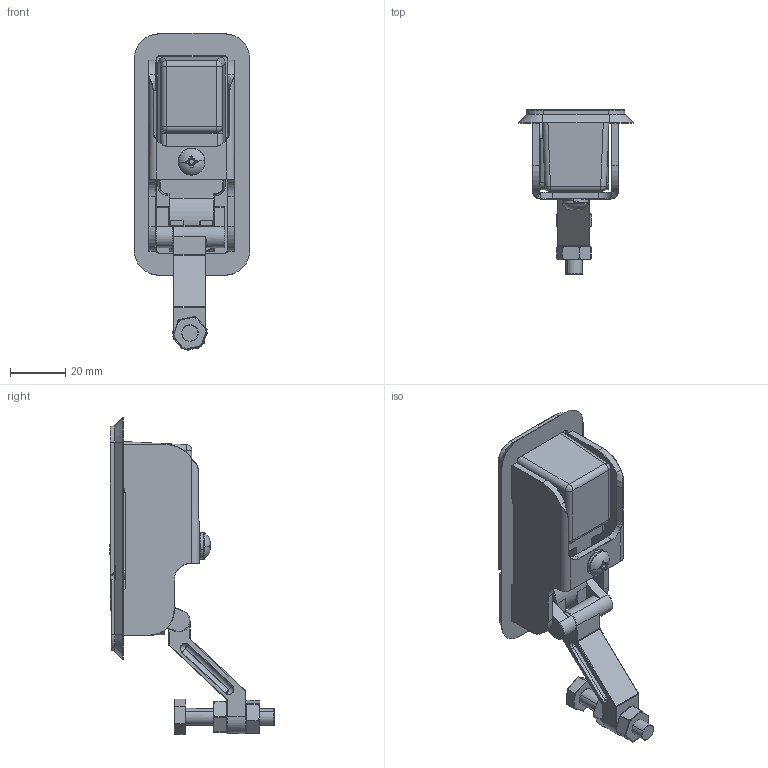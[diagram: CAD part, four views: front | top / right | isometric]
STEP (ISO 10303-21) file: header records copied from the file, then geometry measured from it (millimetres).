
FILE_DESCRIPTION (( 'STEP AP214' ), '1' );
FILE_NAME ('UES 10208B CP.BLK.STEP', '2016-09-16T05:03:24', ( 'rquinn' ), ( '' ), 'SwSTEP 2.0', 'SolidWorks 2016', '' );
FILE_SCHEMA (( 'AUTOMOTIVE_DESIGN' ));
Length unit declared in the file: millimetre
Products named in the file (16): 10208B Spring Washer; 10208B Screw; 10208B Housing; 10208B Rubber Seal; 10208B Arm Nut; 10208B Arm Bolt; 10208B Lock Barrel cap; 10208B Lock Barrel; 10208B Button Pin; 10208B Button; 10208B Arm side; 10208B Door_BLK; 10208B O-Ring; 10208B Arm; 10208B Inner Housing_BLK; UES 10208B CP.BLK
Assembly tree (16 placements, depth 2):
  UES 10208B CP.BLK
    10208B Inner Housing_BLK
    10208B Arm
    10208B O-Ring
    10208B Door_BLK
    10208B Arm side
    10208B Button
    10208B Button Pin
    10208B Lock Barrel
    10208B Lock Barrel cap
    10208B Arm Bolt
    10208B Arm Nut  x2
    10208B Rubber Seal
    10208B Housing
    10208B Screw
    10208B Spring Washer
Bounding box: 41.5 x 59.35 x 114.27 mm (x, y, z)
Volume: 45552.7 mm3; surface area: 44593.6 mm2
Topology: 16 solids, 16 shells, 2058 faces, 4787 edges, 2555 vertices
Faces by surface type: cylinder 737, torus 432, plane 341, bspline 295, sphere 230, cone 23
Entity records: 60843 total; most frequent: CARTESIAN_POINT 18554, DIRECTION 9159, ORIENTED_EDGE 8554, EDGE_CURVE 4277, AXIS2_PLACEMENT_3D 3833, VERTEX_POINT 2397, CIRCLE 2158, EDGE_LOOP 1974
